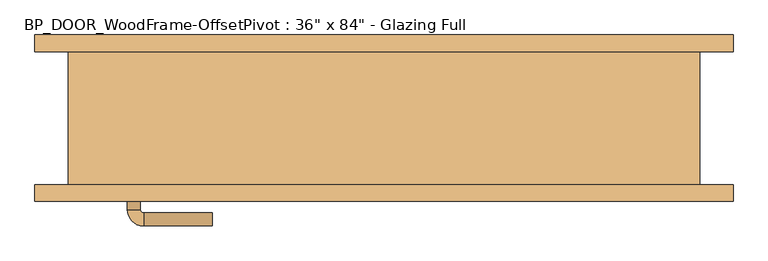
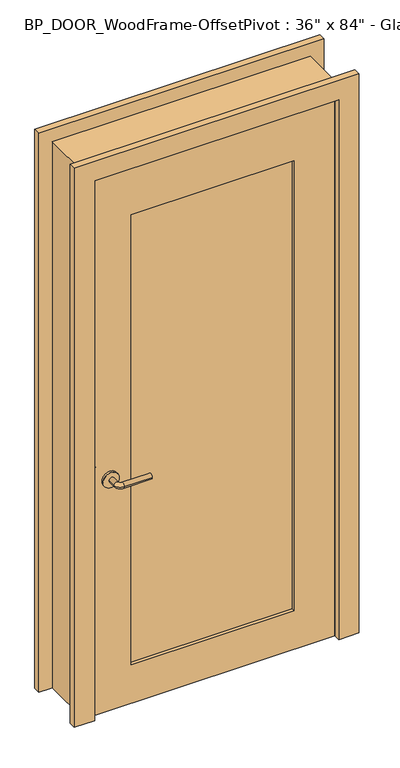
"""IFC4 building model written with IfcOpenShell, lengths in millimetres: door geometry."""

from ifc_helpers import new_model, si_unit, point, frame, frame_2d, origin, place, context, project, spatial, polyline, circle_curve, ellipse_curve, trimmed, segment, composite_curve, outline, extrude, source, transform, mapped, element, save
from ifc_brep_helpers import plane_surface, cylinder_surface, revolved_surface, advanced_brep


def door_c90a9d60(model_context):
    return source(origin(), model_context, "Body", "SolidModel", [
        extrude(outline(polyline([(0.0, -457.1945313), (2133.5945313, -457.1945313), (2133.5945313, 457.1945312), (0.0, 457.1945312), (0.0, 482.5945312), (2158.9945313, 482.5945312), (2158.9945313, -482.5945313), (0.0, -482.5945313), (0.0, -457.1945313)])), frame((0.0, -101.6, 0.0), z_axis=(0.0, 1.0, 0.0), x_axis=(0.0, 0.0, 1.0)), (0.0, 0.0, 1.0), 203.2),
        extrude(outline(polyline([(0.0, 533.4), (2209.8, 533.4), (2209.8, -533.4), (0.0, -533.4), (0.0, -457.2), (2133.6, -457.2), (2133.6, 457.2), (0.0, 457.2), (0.0, 533.4)])), frame((0.0, -127.0, 0.0), z_axis=(0.0, 1.0, 0.0), x_axis=(0.0, 0.0, 1.0)), (0.0, 0.0, 1.0), 25.4),
        extrude(outline(polyline([(0.0, 533.4), (2209.8, 533.4), (2209.8, -533.4), (0.0, -533.4), (0.0, -457.2), (2133.6, -457.2), (2133.6, 457.2), (0.0, 457.2), (0.0, 533.4)])), frame((0.0, 101.6, 0.0), z_axis=(0.0, 1.0, 0.0), x_axis=(0.0, 0.0, 1.0)), (0.0, 0.0, 1.0), 25.4),
        advanced_brep(
        [(-392.2, -55.5, 915.0), (-372.2, -55.5, 915.0), (-392.2, -25.5, 915.0), (-372.2, -25.5, 915.0), (-367.2, -20.5, 915.0), (-367.2, -0.5, 915.0), (-262.2, -0.5, 915.0), (-262.2, -20.5, 915.0)],
        [
            (0, 1, circle_curve(frame((-382.2, -55.5, 915.0), z_axis=(0.0, -1.0, 0.0), x_axis=(1.0, 0.0, 0.0)), 10.0)),
            (1, 0, circle_curve(frame((-382.2, -55.5, 915.0), z_axis=(0.0, -1.0, 0.0), x_axis=(1.0, 0.0, 0.0)), 10.0)),
            (0, 2),
            (2, 3, circle_curve(frame((-382.2, -25.5, 915.0), z_axis=(0.0, -1.0, 0.0), x_axis=(1.0, 0.0, 0.0)), 10.0)),
            (3, 1),
            (3, 2, circle_curve(frame((-382.2, -25.5, 915.0), z_axis=(0.0, -1.0, 0.0), x_axis=(1.0, 0.0, 0.0)), 10.0)),
            (4, 3, circle_curve(frame((-367.2, -25.5, 915.0), z_axis=(0.0, 0.0, 1.0), x_axis=(-1.0, 0.0, 0.0)), 5.0)),
            (2, 5, circle_curve(frame((-367.2, -25.5, 915.0), z_axis=(0.0, 0.0, -1.0), x_axis=(-1.0, 0.0, 0.0)), 25.0)),
            (5, 4, circle_curve(frame((-367.2, -10.5, 915.0), z_axis=(-1.0, 0.0, 0.0), x_axis=(0.0, -1.0, 0.0)), 10.0)),
            (4, 5, circle_curve(frame((-367.2, -10.5, 915.0), z_axis=(-1.0, 0.0, 0.0), x_axis=(0.0, -1.0, 0.0)), 10.0)),
            (6, 7, circle_curve(frame((-262.2, -10.5, 915.0), z_axis=(1.0, 0.0, 0.0), x_axis=(0.0, -1.0, 0.0)), 10.0)),
            (7, 6, circle_curve(frame((-262.2, -10.5, 915.0), z_axis=(1.0, 0.0, 0.0), x_axis=(0.0, -1.0, 0.0)), 10.0)),
            (5, 6),
            (7, 4),
        ],
        [
            plane_surface(frame((-382.2, -55.5, 915.0), z_axis=(0.0, -1.0, 0.0), x_axis=(0.0, 0.0, 1.0))),
            cylinder_surface(frame((-382.2, -55.5, 915.0), z_axis=(0.0, -1.0, 0.0), x_axis=(1.0, 0.0, 0.0)), 10.0),
            revolved_surface(trimmed(ellipse_curve(frame((-382.2, -25.5, 915.0), z_axis=(0.0, -1.0, 0.0), x_axis=(1.0, 0.0, 0.0)), 10.0, 10.0), [point((-392.2, -25.5, 915.0))], [point((-372.2, -25.5, 915.0))], True, "CARTESIAN"), (-367.2, -25.5, 915.0), (0.0, 0.0, -1.0)),
            revolved_surface(trimmed(ellipse_curve(frame((-382.2, -25.5, 915.0), z_axis=(0.0, -1.0, 0.0), x_axis=(1.0, 0.0, 0.0)), 10.0, 10.0), [point((-372.2, -25.5, 915.0))], [point((-392.2, -25.5, 915.0))], True, "CARTESIAN"), (-367.2, -25.5, 915.0), (0.0, 0.0, -1.0)),
            plane_surface(frame((-262.2, -10.5, 915.0), z_axis=(1.0, 0.0, 0.0), x_axis=(0.0, 0.0, 1.0))),
            cylinder_surface(frame((-367.2, -10.5, 915.0), z_axis=(-1.0, 0.0, 0.0), x_axis=(0.0, -1.0, 0.0)), 10.0),
        ],
        [
            (0, [[1, 2]]),
            (1, [[-1, 3, 4, 5]]),
            (1, [[-2, -5, 6, -3]]),
            (2, [[7, -4, 8, 9]]),
            (3, [[-8, -6, -7, 10]]),
            (4, [[11, 12]]),
            (5, [[-9, 13, -12, 14]]),
            (5, [[-10, -14, -11, -13]]),
        ],
    ),
        extrude(outline(composite_curve([segment(trimmed(circle_curve(frame_2d((915.0, -384.7)), 30.0), [point((915.0, -414.7))], [point((915.0, -354.7))], False, "CARTESIAN"), True, "CONTINUOUS"), segment(trimmed(circle_curve(frame_2d((915.0, -384.7)), 30.0), [point((915.0, -354.7))], [point((915.0, -414.7))], False, "CARTESIAN"), True, "CONTINUOUS")], self_intersect=False)), frame((0.0, -63.5, 0.0), z_axis=(0.0, 1.0, 0.0), x_axis=(0.0, 0.0, 1.0)), (0.0, 0.0, 1.0), 8.0),
        advanced_brep(
        [(-392.2, -109.6, 915.0), (-372.2, -109.6, 915.0), (-372.2, -139.6, 915.0), (-392.2, -139.6, 915.0), (-367.2, -144.6, 915.0), (-367.2, -164.6, 915.0), (-262.2, -164.6, 915.0), (-262.2, -144.6, 915.0)],
        [
            (0, 1, circle_curve(frame((-382.2, -109.6, 915.0), z_axis=(0.0, 1.0, 0.0), x_axis=(1.0, 0.0, 0.0)), 10.0)),
            (1, 0, circle_curve(frame((-382.2, -109.6, 915.0), z_axis=(0.0, 1.0, 0.0), x_axis=(1.0, 0.0, 0.0)), 10.0)),
            (1, 2),
            (2, 3, circle_curve(frame((-382.2, -139.6, 915.0), z_axis=(0.0, 1.0, 0.0), x_axis=(1.0, 0.0, 0.0)), 10.0)),
            (3, 0),
            (3, 2, circle_curve(frame((-382.2, -139.6, 915.0), z_axis=(0.0, 1.0, 0.0), x_axis=(1.0, 0.0, 0.0)), 10.0)),
            (4, 5, circle_curve(frame((-367.2, -154.6, 915.0), z_axis=(-1.0, 0.0, 0.0), x_axis=(0.0, 1.0, 0.0)), 10.0)),
            (5, 3, circle_curve(frame((-367.2, -139.6, 915.0), z_axis=(0.0, 0.0, -1.0), x_axis=(-1.0, 0.0, 0.0)), 25.0)),
            (2, 4, circle_curve(frame((-367.2, -139.6, 915.0), z_axis=(0.0, 0.0, 1.0), x_axis=(-1.0, 0.0, 0.0)), 5.0)),
            (5, 4, circle_curve(frame((-367.2, -154.6, 915.0), z_axis=(-1.0, 0.0, 0.0), x_axis=(0.0, 1.0, 0.0)), 10.0)),
            (6, 7, circle_curve(frame((-262.2, -154.6, 915.0), z_axis=(1.0, 0.0, 0.0), x_axis=(0.0, 1.0, 0.0)), 10.0)),
            (7, 6, circle_curve(frame((-262.2, -154.6, 915.0), z_axis=(1.0, 0.0, 0.0), x_axis=(0.0, 1.0, 0.0)), 10.0)),
            (4, 7),
            (6, 5),
        ],
        [
            plane_surface(frame((-382.2, -109.6, 915.0), z_axis=(0.0, 1.0, 0.0), x_axis=(0.0, 0.0, 1.0))),
            cylinder_surface(frame((-382.2, -109.6, 915.0), z_axis=(0.0, 1.0, 0.0), x_axis=(1.0, 0.0, 0.0)), 10.0),
            revolved_surface(trimmed(ellipse_curve(frame((-382.2, -139.6, 915.0), z_axis=(0.0, -1.0, 0.0), x_axis=(1.0, 0.0, 0.0)), 10.0, 10.0), [point((-392.2, -139.6, 915.0))], [point((-372.2, -139.6, 915.0))], True, "CARTESIAN"), (-367.2, -139.6, 915.0), (0.0, 0.0, -1.0)),
            revolved_surface(trimmed(ellipse_curve(frame((-382.2, -139.6, 915.0), z_axis=(0.0, -1.0, 0.0), x_axis=(1.0, 0.0, 0.0)), 10.0, 10.0), [point((-372.2, -139.6, 915.0))], [point((-392.2, -139.6, 915.0))], True, "CARTESIAN"), (-367.2, -139.6, 915.0), (0.0, 0.0, -1.0)),
            plane_surface(frame((-262.2, -154.6, 915.0), z_axis=(1.0, 0.0, 0.0), x_axis=(0.0, 0.0, 1.0))),
            cylinder_surface(frame((-367.2, -154.6, 915.0), z_axis=(-1.0, 0.0, 0.0), x_axis=(0.0, 1.0, 0.0)), 10.0),
        ],
        [
            (0, [[1, 2]]),
            (1, [[3, 4, 5, -2]]),
            (1, [[-5, 6, -3, -1]]),
            (2, [[7, 8, -4, 9]]),
            (3, [[10, -9, -6, -8]]),
            (4, [[11, 12]]),
            (5, [[13, -11, 14, -7]]),
            (5, [[-14, -12, -13, -10]]),
        ],
    ),
        extrude(outline(composite_curve([segment(trimmed(circle_curve(frame_2d((915.0, -384.7)), 30.0), [point((915.0, -414.7))], [point((915.0, -354.7))], False, "CARTESIAN"), True, "CONTINUOUS"), segment(trimmed(circle_curve(frame_2d((915.0, -384.7)), 30.0), [point((915.0, -354.7))], [point((915.0, -414.7))], False, "CARTESIAN"), True, "CONTINUOUS")], self_intersect=False)), frame((0.0, -109.6, 0.0), z_axis=(0.0, 1.0, 0.0), x_axis=(0.0, 0.0, 1.0)), (0.0, 0.0, 1.0), 8.0),
        extrude(outline(polyline([(304.8, -76.2), (304.8, -88.9), (-304.8, -88.9), (-304.8, -76.2), (304.8, -76.2)])), frame((0.0, 0.0, 152.4), z_axis=(0.0, 0.0, 1.0), x_axis=(1.0, 0.0, 0.0)), (0.0, 0.0, 1.0), 1778.0),
        extrude(outline(polyline([(2133.6, 457.2), (2133.6, -457.2), (0.0, -457.2), (0.0, 457.2), (2133.6, 457.2)]), holes=[polyline([(1930.4, 304.8), (152.4, 304.8), (152.4, -304.8), (1930.4, -304.8), (1930.4, 304.8)])]), frame((0.0, -101.6, 0.0), z_axis=(0.0, 1.0, 0.0), x_axis=(0.0, 0.0, 1.0)), (0.0, 0.0, 1.0), 38.1),
    ])


if __name__ == "__main__":
    model = new_model("IFC4")
    model_context = context("Model", 3, world=origin())
    ifc_project = project(units=[si_unit("LENGTHUNIT", "METRE", prefix="MILLI")], contexts=[model_context])
    site = spatial("IfcSite", under=ifc_project)
    building = spatial("IfcBuilding", under=site)
    placement = place(None, origin())
    door_shape = door_c90a9d60(model_context)
    element("IfcDoor", 1, ObjectType="BP_DOOR_WoodFrame-OffsetPivot : 36\" x 84\" - Glazing Full", at=placement, inside=building, context=model_context, shape_type="MappedRepresentation", body=[
        mapped(door_shape, transform((0.0, 0.0, 0.0), x_axis=(1.0, 0.0, 0.0), y_axis=(0.0, 1.0, 0.0), z_axis=(0.0, 0.0, 1.0))),
    ])
    save(model, "model.ifc")
